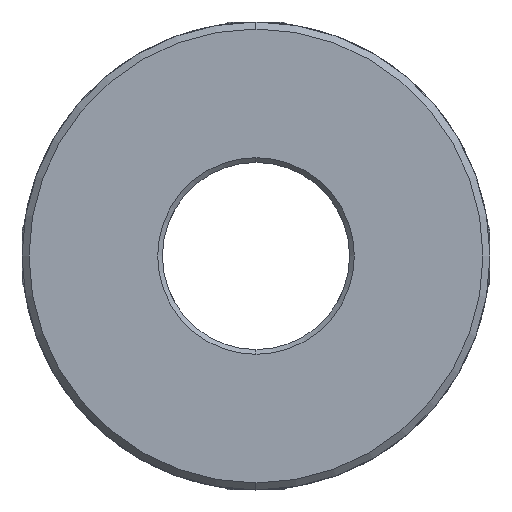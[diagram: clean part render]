
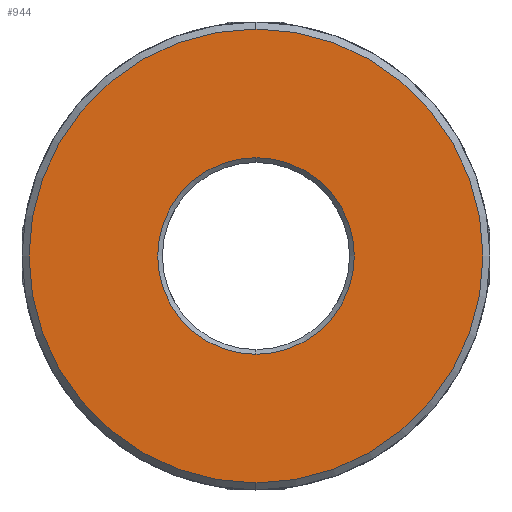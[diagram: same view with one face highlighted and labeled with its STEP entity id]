
A CAD part, front view. The second image highlights one B-rep face of the part: STEP entity #944.
In plain terms, the highlighted planar face has unit normal (0, -1, 0).
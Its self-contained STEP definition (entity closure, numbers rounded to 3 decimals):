
#808 = ORIENTED_EDGE ( 'NONE', *, *, #6771, .T. ) ;
#944 = ADVANCED_FACE ( 'NONE', ( #6457, #7750 ), #6395, .F. ) ;
#955 = ORIENTED_EDGE ( 'NONE', *, *, #5838, .T. ) ;
#1012 = DIRECTION ( 'NONE',  ( 0., 0., 1. ) ) ;
#1049 = DIRECTION ( 'NONE',  ( 0., 0., 1. ) ) ;
#1212 = AXIS2_PLACEMENT_3D ( 'NONE', #2622, #6837, #1012 ) ;
#1683 = AXIS2_PLACEMENT_3D ( 'NONE', #3617, #7827, #4225 ) ;
#1790 = ORIENTED_EDGE ( 'NONE', *, *, #7480, .T. ) ;
#1889 = CARTESIAN_POINT ( 'NONE',  ( 0., 0., 0. ) ) ;
#1903 = EDGE_LOOP ( 'NONE', ( #2996, #808 ) ) ;
#2023 = CIRCLE ( 'NONE', #1212, 8.4 ) ;
#2122 = CARTESIAN_POINT ( 'NONE',  ( 0., 0., -19.4 ) ) ;
#2201 = CARTESIAN_POINT ( 'NONE',  ( 0., 0., 19.4 ) ) ;
#2558 = CARTESIAN_POINT ( 'NONE',  ( 0., 0., -8.4 ) ) ;
#2622 = CARTESIAN_POINT ( 'NONE',  ( 0., 0., 0. ) ) ;
#2950 = CIRCLE ( 'NONE', #1683, 8.4 ) ;
#2996 = ORIENTED_EDGE ( 'NONE', *, *, #4821, .T. ) ;
#3108 = DIRECTION ( 'NONE',  ( 0., 0., 1. ) ) ;
#3337 = AXIS2_PLACEMENT_3D ( 'NONE', #4104, #4125, #5495 ) ;
#3395 = CARTESIAN_POINT ( 'NONE',  ( 24.74, 0., -50. ) ) ;
#3617 = CARTESIAN_POINT ( 'NONE',  ( 0., 0., 0. ) ) ;
#3776 = CARTESIAN_POINT ( 'NONE',  ( 0., 0., 8.4 ) ) ;
#3861 = VERTEX_POINT ( 'NONE', #2122 ) ;
#3967 = VERTEX_POINT ( 'NONE', #2201 ) ;
#4104 = CARTESIAN_POINT ( 'NONE',  ( 0., 0., 0. ) ) ;
#4125 = DIRECTION ( 'NONE',  ( 0., -1., 0. ) ) ;
#4225 = DIRECTION ( 'NONE',  ( 0., 0., 1. ) ) ;
#4644 = DIRECTION ( 'NONE',  ( 0., 1., 0. ) ) ;
#4821 = EDGE_CURVE ( 'NONE', #3967, #3861, #5324, .T. ) ;
#5184 = EDGE_LOOP ( 'NONE', ( #955, #1790 ) ) ;
#5324 = CIRCLE ( 'NONE', #3337, 19.4 ) ;
#5495 = DIRECTION ( 'NONE',  ( 0., 0., 1. ) ) ;
#5838 = EDGE_CURVE ( 'NONE', #7360, #7795, #2023, .T. ) ;
#5931 = AXIS2_PLACEMENT_3D ( 'NONE', #1889, #6702, #3108 ) ;
#6395 = PLANE ( 'NONE',  #7699 ) ;
#6457 = FACE_BOUND ( 'NONE', #5184, .T. ) ;
#6702 = DIRECTION ( 'NONE',  ( 0., -1., 0. ) ) ;
#6771 = EDGE_CURVE ( 'NONE', #3861, #3967, #7101, .T. ) ;
#6837 = DIRECTION ( 'NONE',  ( 0., 1., 0. ) ) ;
#7101 = CIRCLE ( 'NONE', #5931, 19.4 ) ;
#7360 = VERTEX_POINT ( 'NONE', #2558 ) ;
#7480 = EDGE_CURVE ( 'NONE', #7795, #7360, #2950, .T. ) ;
#7699 = AXIS2_PLACEMENT_3D ( 'NONE', #3395, #4644, #1049 ) ;
#7750 = FACE_OUTER_BOUND ( 'NONE', #1903, .T. ) ;
#7795 = VERTEX_POINT ( 'NONE', #3776 ) ;
#7827 = DIRECTION ( 'NONE',  ( 0., 1., 0. ) ) ;
